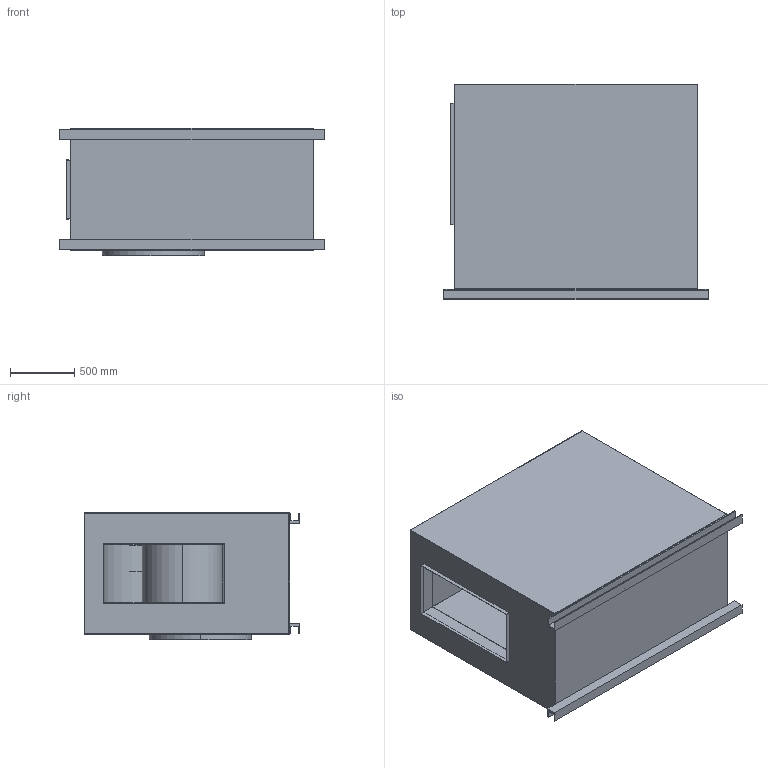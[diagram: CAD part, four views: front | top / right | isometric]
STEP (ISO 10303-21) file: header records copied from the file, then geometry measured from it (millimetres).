
FILE_DESCRIPTION(('STEP AP214'),'1');
FILE_NAME('fan_sptr000125_h.stp','2017-03-31T12:38:22',('TraceParts'),('TraceParts S.A.'),'Spatial InterOp 3D',' ',' ');
FILE_SCHEMA(('automotive_design'));
Length unit declared in the file: millimetre
Products named in the file (1): fan_sptr000125_h
Bounding box: 2060 x 1680 x 990 mm (x, y, z)
Volume: 1135401541.9 mm3; surface area: 34190257.3 mm2
Topology: 1 solids, 1 shells, 172 faces, 454 edges, 280 vertices
Faces by surface type: plane 109, cylinder 51, sphere 8, torus 4
Entity records: 6646 total; most frequent: DIRECTION 940, CARTESIAN_POINT 899, ORIENTED_EDGE 892, EDGE_CURVE 446, AXIS2_PLACEMENT_3D 321, LINE 298, VECTOR 298, VERTEX_POINT 280
